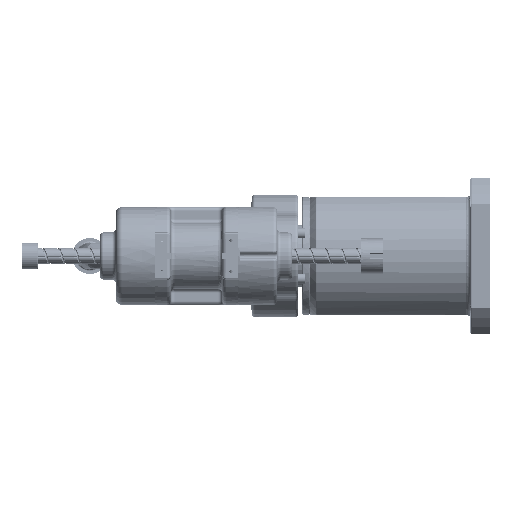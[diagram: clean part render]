
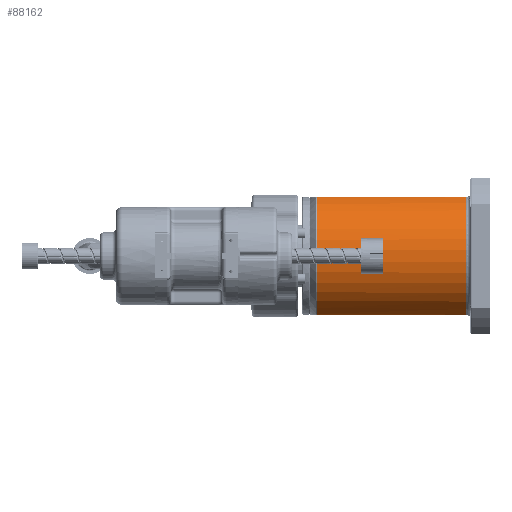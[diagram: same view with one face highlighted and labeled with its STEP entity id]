
A CAD part, left-side view. The second image highlights one B-rep face of the part: STEP entity #88162.
In plain terms, the highlighted cylindrical face has radius 83 mm (diameter 166 mm), a partial arc.
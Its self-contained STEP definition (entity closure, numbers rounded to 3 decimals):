
#604 = CARTESIAN_POINT ( 'NONE',  ( -36.312, 220.925, -74.636 ) ) ;
#2182 = CARTESIAN_POINT ( 'NONE',  ( -36.589, 221.026, -74.5 ) ) ;
#3878 = CARTESIAN_POINT ( 'NONE',  ( -37.438, 221.172, 74.077 ) ) ;
#4972 = CARTESIAN_POINT ( 'NONE',  ( -36.048, 220.78, 74.763 ) ) ;
#5558 = CARTESIAN_POINT ( 'NONE',  ( -36.048, 230., -74.763 ) ) ;
#9978 = B_SPLINE_CURVE_WITH_KNOTS ( 'NONE', 3,
 ( #37762, #145690, #86072, #98319, #2182, #604, #122707, #122186 ),
 .UNSPECIFIED., .F., .F.,
 ( 4, 2, 2, 4 ),
 ( 0., 0.001, 0.001, 0.002 ),
 .UNSPECIFIED. ) ;
#16603 = CYLINDRICAL_SURFACE ( 'NONE', #144582, 83. ) ;
#17823 = DIRECTION ( 'NONE',  ( 1., 0., 0. ) ) ;
#18363 = CIRCLE ( 'NONE', #21743, 83. ) ;
#21729 = CARTESIAN_POINT ( 'NONE',  ( 0., 230., 0. ) ) ;
#21743 = AXIS2_PLACEMENT_3D ( 'NONE', #39977, #148480, #137266 ) ;
#22450 = DIRECTION ( 'NONE',  ( 0., 1., 0. ) ) ;
#25844 = ORIENTED_EDGE ( 'NONE', *, *, #80822, .T. ) ;
#27821 = CARTESIAN_POINT ( 'NONE',  ( -36.586, 221.035, 74.502 ) ) ;
#31711 = FACE_OUTER_BOUND ( 'NONE', #118489, .T. ) ;
#32474 = VERTEX_POINT ( 'NONE', #39125 ) ;
#33240 = VERTEX_POINT ( 'NONE', #81151 ) ;
#37762 = CARTESIAN_POINT ( 'NONE',  ( -37.726, 221.172, -73.931 ) ) ;
#39125 = CARTESIAN_POINT ( 'NONE',  ( -37.726, 221.172, 73.931 ) ) ;
#39977 = CARTESIAN_POINT ( 'NONE',  ( 0., 221.172, 0. ) ) ;
#40014 = ORIENTED_EDGE ( 'NONE', *, *, #121640, .T. ) ;
#41626 = VERTEX_POINT ( 'NONE', #4972 ) ;
#45515 = CARTESIAN_POINT ( 'NONE',  ( -37.726, 221.172, -73.931 ) ) ;
#50659 = CARTESIAN_POINT ( 'NONE',  ( -37.152, 221.15, 74.221 ) ) ;
#59472 = EDGE_CURVE ( 'NONE', #33240, #147065, #82678, .T. ) ;
#60195 = ORIENTED_EDGE ( 'NONE', *, *, #81992, .T. ) ;
#65685 = ORIENTED_EDGE ( 'NONE', *, *, #106540, .T. ) ;
#67102 = CARTESIAN_POINT ( 'NONE',  ( 0., 30., 0. ) ) ;
#74550 = CARTESIAN_POINT ( 'NONE',  ( -37.726, 221.172, 73.931 ) ) ;
#75580 = CARTESIAN_POINT ( 'NONE',  ( -36.302, 220.942, 74.641 ) ) ;
#76038 = VERTEX_POINT ( 'NONE', #92926 ) ;
#80747 = CARTESIAN_POINT ( 'NONE',  ( -36.048, 30., -74.763 ) ) ;
#80822 = EDGE_CURVE ( 'NONE', #119423, #33240, #9978, .T. ) ;
#81151 = CARTESIAN_POINT ( 'NONE',  ( -36.048, 220.78, -74.763 ) ) ;
#81992 = EDGE_CURVE ( 'NONE', #32474, #119423, #18363, .T. ) ;
#82678 = LINE ( 'NONE', #5558, #152827 ) ;
#86072 = CARTESIAN_POINT ( 'NONE',  ( -37.152, 221.15, -74.221 ) ) ;
#87042 = AXIS2_PLACEMENT_3D ( 'NONE', #67102, #90543, #17823 ) ;
#88162 = ADVANCED_FACE ( 'NONE', ( #31711 ), #16603, .T. ) ;
#90543 = DIRECTION ( 'NONE',  ( 0., 1., 0. ) ) ;
#92926 = CARTESIAN_POINT ( 'NONE',  ( -36.048, 30., 74.763 ) ) ;
#93971 = DIRECTION ( 'NONE',  ( 0., 1., 0. ) ) ;
#98319 = CARTESIAN_POINT ( 'NONE',  ( -36.729, 221.064, -74.431 ) ) ;
#101412 = CIRCLE ( 'NONE', #87042, 83. ) ;
#106540 = EDGE_CURVE ( 'NONE', #41626, #32474, #150363, .T. ) ;
#107309 = ORIENTED_EDGE ( 'NONE', *, *, #59472, .T. ) ;
#115355 = EDGE_CURVE ( 'NONE', #76038, #41626, #142263, .T. ) ;
#116686 = ORIENTED_EDGE ( 'NONE', *, *, #115355, .T. ) ;
#118489 = EDGE_LOOP ( 'NONE', ( #25844, #107309, #40014, #116686, #65685, #60195 ) ) ;
#118851 = DIRECTION ( 'NONE',  ( -1., 0., 0. ) ) ;
#119423 = VERTEX_POINT ( 'NONE', #45515 ) ;
#119564 = CARTESIAN_POINT ( 'NONE',  ( -36.048, 230., 74.763 ) ) ;
#121640 = EDGE_CURVE ( 'NONE', #147065, #76038, #101412, .T. ) ;
#122186 = CARTESIAN_POINT ( 'NONE',  ( -36.048, 220.78, -74.763 ) ) ;
#122707 = CARTESIAN_POINT ( 'NONE',  ( -36.176, 220.862, -74.702 ) ) ;
#123909 = CARTESIAN_POINT ( 'NONE',  ( -36.048, 220.78, 74.763 ) ) ;
#137266 = DIRECTION ( 'NONE',  ( -1., 0., 0. ) ) ;
#139484 = DIRECTION ( 'NONE',  ( 0., -1., 0. ) ) ;
#142263 = LINE ( 'NONE', #119564, #155523 ) ;
#144582 = AXIS2_PLACEMENT_3D ( 'NONE', #21729, #93971, #118851 ) ;
#145690 = CARTESIAN_POINT ( 'NONE',  ( -37.438, 221.172, -74.078 ) ) ;
#147065 = VERTEX_POINT ( 'NONE', #80747 ) ;
#148480 = DIRECTION ( 'NONE',  ( 0., -1., 0. ) ) ;
#150363 = B_SPLINE_CURVE_WITH_KNOTS ( 'NONE', 3,
 ( #123909, #75580, #27821, #50659, #3878, #74550 ),
 .UNSPECIFIED., .F., .F.,
 ( 4, 2, 4 ),
 ( 0., 0.001, 0.002 ),
 .UNSPECIFIED. ) ;
#152827 = VECTOR ( 'NONE', #139484, 1000. ) ;
#155523 = VECTOR ( 'NONE', #22450, 1000. ) ;
